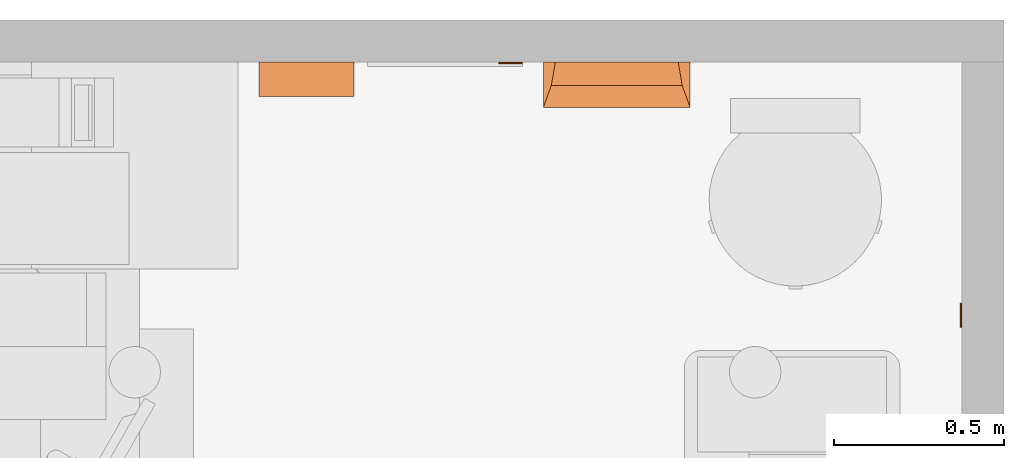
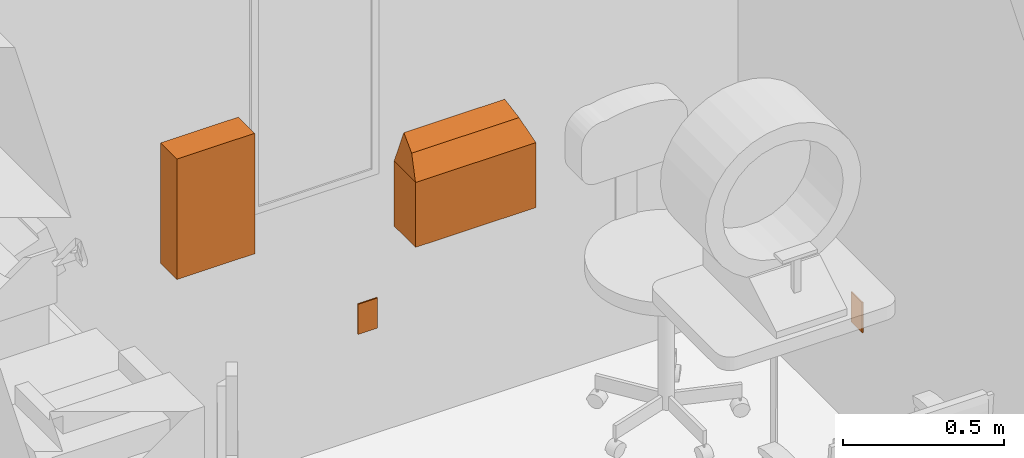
# One storey, part 7 of 11: 4 proxies.
"""IFC2X3 building model written with IfcOpenShell, lengths in feet."""

import ifcopenshell
import ifcopenshell.guid

model = None  # the IFC model being written
_history = None  # IfcOwnerHistory: only IFC2X3 demands one
_inside = {}  # id of a spatial element -> (the spatial element, [elements in it])
_under = {}  # id of a project, library or spatial element -> (it, [spatial elements below it])
_declared = {}  # id of a project -> (the project, [libraries it declares])
_typed = {}  # id of a type object -> (the type object, [elements of that type])
_made_of = {}  # id of a material, layer set ... -> (it, [elements and type objects made of it])


def new_model(schema):
    """Start an empty IFC model of exactly this schema.

    Asked for "IFC4X3", IfcOpenShell would pick the latest addendum, in which some entities
    have other attributes; the version numbers below select the first issue.
    IFC2X3 requires an IfcOwnerHistory on every rooted entity: one is made here for all.
    """
    global model, _history
    if schema == "IFC4X3":
        model = ifcopenshell.file(schema_version=(4, 3, 0, 0))
    else:
        model = ifcopenshell.file(schema=schema)
    _inside.clear()
    _under.clear()
    _declared.clear()
    _typed.clear()
    _made_of.clear()
    _history = None
    if model.schema == "IFC2X3":
        org = make("IfcOrganization", Name="unknown")
        user = make(
            "IfcPersonAndOrganization",
            ThePerson=make("IfcPerson", FamilyName="unknown"),
            TheOrganization=org,
        )
        app = make(
            "IfcApplication",
            ApplicationDeveloper=org,
            Version="unknown",
            ApplicationFullName="unknown",
            ApplicationIdentifier="unknown",
        )
        _history = make(
            "IfcOwnerHistory",
            OwningUser=user,
            OwningApplication=app,
            ChangeAction="ADDED",
            CreationDate=0,
        )
    return model


def make(cls, **values):
    """One entity of the class cls with the attributes given. An attribute that is None is left unset."""
    return model.create_entity(
        cls, **{name: value for name, value in values.items() if value is not None}
    )


def entity(cls, *values):
    """Any entity or typed value of the class cls, its attributes in the order of the schema. None: left unset."""
    e = model.create_entity(cls)
    for i, value in enumerate(values):
        if value is not None:
            e[i] = value
    return e


def rooted(cls, **values):
    """An entity with a GlobalId (a new one), such as an element, a storey or a relation."""
    return make(cls, GlobalId=ifcopenshell.guid.new(), OwnerHistory=_history, **values)


def si_unit(unit_type, name, prefix=None):
    """IfcSIUnit, for example si_unit("LENGTHUNIT", "METRE", prefix="MILLI")."""
    return make("IfcSIUnit", UnitType=unit_type, Prefix=prefix, Name=name)


def converted_unit(unit_type, name, factor, base, dimensions=None, offset=None):
    """IfcConversionBasedUnit, such as the inch: factor (a typed value) times the base unit."""
    return make(
        "IfcConversionBasedUnit"
        if offset is None
        else "IfcConversionBasedUnitWithOffset",
        ConversionOffset=offset,
        Dimensions=None
        if dimensions is None
        else entity("IfcDimensionalExponents", *dimensions),
        UnitType=unit_type,
        Name=name,
        ConversionFactor=make(
            "IfcMeasureWithUnit", ValueComponent=factor, UnitComponent=base
        ),
    )


def derived_unit(unit_type, elements):
    """IfcDerivedUnit: a product of units, each with its exponent."""
    return make(
        "IfcDerivedUnit",
        Elements=[
            make("IfcDerivedUnitElement", Unit=unit, Exponent=power)
            for unit, power in elements
        ],
        UnitType=unit_type,
    )


def assignment(units):
    """IfcUnitAssignment: the units of a project."""
    return None if units is None else make("IfcUnitAssignment", Units=units)


def point(xyz):
    """IfcCartesianPoint."""
    return None if xyz is None else make("IfcCartesianPoint", Coordinates=xyz)


def direction(xyz):
    """IfcDirection."""
    return None if xyz is None else make("IfcDirection", DirectionRatios=xyz)


def frame(location, z_axis=None, x_axis=None):
    """IfcAxis2Placement3D, a coordinate frame: its origin and axes. An axis left out is left unset."""
    return make(
        "IfcAxis2Placement3D",
        Location=point(location),
        Axis=direction(z_axis),
        RefDirection=direction(x_axis),
    )


def frame_2d(location, x_axis=None):
    """IfcAxis2Placement2D, a coordinate frame in the plane: its origin and x axis."""
    return make(
        "IfcAxis2Placement2D", Location=point(location), RefDirection=direction(x_axis)
    )


def origin():
    """The frame at (0, 0, 0) with its axes left unset."""
    return frame((0.0, 0.0, 0.0))


def origin_2d_with_axis():
    """The frame at (0, 0) in the plane with the x axis (1, 0) written out."""
    return frame_2d((0.0, 0.0), x_axis=(1.0, 0.0))


def place(relative_to, where):
    """IfcLocalPlacement: puts the frame where relative to a parent placement (None: the world)."""
    return make(
        "IfcLocalPlacement", PlacementRelTo=relative_to, RelativePlacement=where
    )


def context(
    kind, dimensions, precision=None, world=None, true_north=None, identifier=None
):
    """IfcGeometricRepresentationContext, for example the 3D "Model" context."""
    return make(
        "IfcGeometricRepresentationContext",
        ContextIdentifier=identifier,
        ContextType=kind,
        CoordinateSpaceDimension=dimensions,
        Precision=precision,
        WorldCoordinateSystem=world,
        TrueNorth=true_north,
    )


def subcontext(parent, identifier, kind, view, scale=None):
    """IfcGeometricRepresentationSubContext, for example "Body" below "Model"."""
    return make(
        "IfcGeometricRepresentationSubContext",
        ContextIdentifier=identifier,
        ContextType=kind,
        ParentContext=parent,
        TargetScale=scale,
        TargetView=view,
    )


def project(units=None, contexts=None):
    """IfcProject with its units and contexts."""
    return rooted(
        "IfcProject",
        Name="project",
        RepresentationContexts=contexts,
        UnitsInContext=assignment(units),
    )


def spatial(cls, under=None, at=None, **own):
    """A site, building, storey or space (cls), placed at a placement, below another one or the project."""
    s = rooted(cls, ObjectPlacement=at, **own)
    if under is not None:
        _under.setdefault(under.id(), (under, []))[1].append(s)
    return s


def profile(cls, at=None, kind="AREA", **sizes):
    """A parametric profile (cls). Its sizes go by their IFC names, for example OverallWidth=200.0."""
    return make(cls, ProfileType=kind, Position=at, **sizes)


def rectangle(**sizes):
    """IfcRectangleProfileDef."""
    return profile("IfcRectangleProfileDef", **sizes)


def extrude(swept, where, along, depth):
    """IfcExtrudedAreaSolid: the profile swept, set in the frame where, extruded along a direction by depth."""
    return make(
        "IfcExtrudedAreaSolid",
        SweptArea=swept,
        Position=where,
        ExtrudedDirection=direction(along),
        Depth=depth,
    )


def faces_of(points, faces, orient=None, outer=None):
    """IfcFace entities. A face is a list of loops; a loop is a list of indices into points, from 0.

    orient and outer hold one flag for each loop. By default every Orientation is true, the
    first loop of a face is its IfcFaceOuterBound and the others are IfcFaceBound.
    """
    made = []
    for i, loops in enumerate(faces):
        bounds = []
        for j, loop in enumerate(loops):
            is_outer = j == 0 if outer is None else outer[i][j]
            bounds.append(
                make(
                    "IfcFaceOuterBound" if is_outer else "IfcFaceBound",
                    Bound=make("IfcPolyLoop", Polygon=[points[k] for k in loop]),
                    Orientation=True if orient is None else orient[i][j],
                )
            )
        made.append(make("IfcFace", Bounds=bounds))
    return made


def faceted_brep(points, faces, orient=None, outer=None, voids=None):
    """IfcFacetedBrep: a solid bounded by flat faces; with voids (closed shells), ...WithVoids."""
    shared = [point(p) for p in points]
    hull = make("IfcClosedShell", CfsFaces=faces_of(shared, faces, orient, outer))
    if voids is None:
        return make("IfcFacetedBrep", Outer=hull)
    return make(
        "IfcFacetedBrepWithVoids",
        Outer=hull,
        Voids=[
            make(cls, CfsFaces=faces_of(shared, fs, o, b)) for cls, fs, o, b in voids
        ],
    )


def shape(context_of_items, identifier, shape_type, items):
    """IfcShapeRepresentation: the items that make up one representation, for example the "Body"."""
    return make(
        "IfcShapeRepresentation",
        ContextOfItems=context_of_items,
        RepresentationIdentifier=identifier,
        RepresentationType=shape_type,
        Items=items,
    )


def source(mapping_origin, context_of_items, identifier, shape_type, items):
    """IfcRepresentationMap: a shape defined once, which mapped items show again and again."""
    return make(
        "IfcRepresentationMap",
        MappingOrigin=mapping_origin,
        MappedRepresentation=shape(context_of_items, identifier, shape_type, items),
    )


def transform(
    local_origin,
    x_axis=None,
    y_axis=None,
    z_axis=None,
    scale=None,
    scale2=None,
    scale3=None,
    uniform=True,
):
    """IfcCartesianTransformationOperator3D, or its non-uniform kind. x_axis, y_axis, z_axis: its Axis1, 2, 3."""
    if uniform:
        return make(
            "IfcCartesianTransformationOperator3D",
            Axis1=direction(x_axis),
            Axis2=direction(y_axis),
            LocalOrigin=point(local_origin),
            Scale=scale,
            Axis3=direction(z_axis),
        )
    return make(
        "IfcCartesianTransformationOperator3DnonUniform",
        Axis1=direction(x_axis),
        Axis2=direction(y_axis),
        LocalOrigin=point(local_origin),
        Scale=scale,
        Axis3=direction(z_axis),
        Scale2=scale2,
        Scale3=scale3,
    )


def mapped(mapping_source, mapping_target):
    """IfcMappedItem: shows the shape of a source again, moved by a transform."""
    return make(
        "IfcMappedItem", MappingSource=mapping_source, MappingTarget=mapping_target
    )


def made_of(thing, what):
    """Note that an element or type object is made of a material, layer set ...; save() writes the relation."""
    if what is not None:
        _made_of.setdefault(what.id(), (what, []))[1].append(thing)
    return thing


def type_object(cls, material=None, **own):
    """A type object (cls), such as IfcWallType, which elements share."""
    return made_of(rooted(cls, **own), material)


def type_shapes(of_type, sources):
    """Give a type object the sources (RepresentationMaps) that its elements show as mapped items."""
    of_type.RepresentationMaps = sources


def element(
    cls,
    number,
    at=None,
    inside=None,
    cuts=None,
    type_object=None,
    material=None,
    context=None,
    identifier="Body",
    shape_type=None,
    held_by="IfcProductDefinitionShape",
    body=None,
    shapes=None,
    **own,
):
    """One element of the class cls, such as IfcWall. Its Tag is "e" and its number.

    at: its placement. inside: the storey or other place that contains it. cuts: it is an
    opening in that element (IfcRelVoidsElement). A single representation is given by context,
    identifier, shape_type and body (its items); several are given by shapes. held_by: the class
    of the entity that holds the representations. save() writes the other relations.
    """
    e = rooted(cls, Tag="e%d" % number, ObjectPlacement=at, **own)
    if body is not None:
        shapes = [shape(context, identifier, shape_type, body)]
    if shapes is not None:
        e.Representation = make(held_by, Representations=shapes)
    if inside is not None:
        _inside.setdefault(inside.id(), (inside, []))[1].append(e)
    if cuts is not None:
        rooted(
            "IfcRelVoidsElement", RelatingBuildingElement=cuts, RelatedOpeningElement=e
        )
    if type_object is not None:
        _typed.setdefault(type_object.id(), (type_object, []))[1].append(e)
    return made_of(e, material)


def aggregate(whole, parts):
    """IfcRelAggregates: a whole, such as a stair, and the parts it consists of."""
    return rooted("IfcRelAggregates", RelatingObject=whole, RelatedObjects=parts)


def save(model, path):
    """Write the relations noted so far, then the file.

    IfcRelAggregates (storeys below a building ...), IfcRelContainedInSpatialStructure (elements
    in a storey), IfcRelDefinesByType, IfcRelAssociatesMaterial and IfcRelDeclares: one each for
    every whole, place, type object, material and project.
    """
    for whole, parts in _under.values():
        aggregate(whole, parts)
    for where, things in _inside.values():
        rooted(
            "IfcRelContainedInSpatialStructure",
            RelatedElements=things,
            RelatingStructure=where,
        )
    for kind, things in _typed.values():
        rooted("IfcRelDefinesByType", RelatedObjects=things, RelatingType=kind)
    for what, things in _made_of.values():
        rooted("IfcRelAssociatesMaterial", RelatedObjects=things, RelatingMaterial=what)
    for by, libraries in _declared.values():
        rooted("IfcRelDeclares", RelatingContext=by, RelatedDefinitions=libraries)
    model.write(path)


model = new_model("IFC2X3")

# Units and contexts
model_context = context("Model", 3, precision=0.0001, world=origin(), true_north=direction((6.12303176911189e-17, 1.0)))
body_context = subcontext(model_context, "Body", "Model", "MODEL_VIEW")
ifc_project = project(units=[converted_unit("LENGTHUNIT", "FOOT", entity("IfcRatioMeasure", 0.3048), si_unit("LENGTHUNIT", "METRE"), dimensions=[1, 0, 0, 0, 0, 0, 0]), converted_unit("AREAUNIT", "SQUARE FOOT", entity("IfcRatioMeasure", 0.09290304), si_unit("AREAUNIT", "SQUARE_METRE"), dimensions=[2, 0, 0, 0, 0, 0, 0]), converted_unit("VOLUMEUNIT", "CUBIC FOOT", entity("IfcRatioMeasure", 0.028316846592), si_unit("VOLUMEUNIT", "CUBIC_METRE"), dimensions=[3, 0, 0, 0, 0, 0, 0]), converted_unit("PLANEANGLEUNIT", "DEGREE", entity("IfcRatioMeasure", 0.0174532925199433), si_unit("PLANEANGLEUNIT", "RADIAN"), dimensions=[0, 0, 0, 0, 0, 0, 0]), si_unit("MASSUNIT", "GRAM", prefix="KILO"), derived_unit("MASSDENSITYUNIT", [(si_unit("MASSUNIT", "GRAM", prefix="KILO"), 1), (si_unit("LENGTHUNIT", "METRE"), -3)]), si_unit("TIMEUNIT", "SECOND"), si_unit("FREQUENCYUNIT", "HERTZ"), si_unit("THERMODYNAMICTEMPERATUREUNIT", "DEGREE_CELSIUS"), derived_unit("THERMALTRANSMITTANCEUNIT", [(si_unit("MASSUNIT", "GRAM", prefix="KILO"), 1), (si_unit("THERMODYNAMICTEMPERATUREUNIT", "KELVIN"), -1), (si_unit("TIMEUNIT", "SECOND"), -3)]), derived_unit("VOLUMETRICFLOWRATEUNIT", [(si_unit("LENGTHUNIT", "METRE"), 3), (si_unit("TIMEUNIT", "SECOND"), -1)]), si_unit("ELECTRICCURRENTUNIT", "AMPERE"), si_unit("ELECTRICVOLTAGEUNIT", "VOLT"), si_unit("POWERUNIT", "WATT"), si_unit("FORCEUNIT", "NEWTON"), si_unit("ILLUMINANCEUNIT", "LUX"), si_unit("LUMINOUSFLUXUNIT", "LUMEN"), si_unit("LUMINOUSINTENSITYUNIT", "CANDELA"), derived_unit("USERDEFINED", [(si_unit("MASSUNIT", "GRAM", prefix="KILO"), -1), (si_unit("LENGTHUNIT", "METRE"), -2), (si_unit("TIMEUNIT", "SECOND"), 3), (si_unit("LUMINOUSFLUXUNIT", "LUMEN"), 1)]), derived_unit("LINEARVELOCITYUNIT", [(si_unit("LENGTHUNIT", "METRE"), 1), (si_unit("TIMEUNIT", "SECOND"), -1)]), si_unit("PRESSUREUNIT", "PASCAL"), derived_unit("USERDEFINED", [(si_unit("LENGTHUNIT", "METRE"), -2), (si_unit("MASSUNIT", "GRAM", prefix="KILO"), 1), (si_unit("TIMEUNIT", "SECOND"), -2)])], contexts=[model_context])

# Site, building, storey, space
site_placement = place(None, origin())
site = spatial("IfcSite", under=ifc_project, at=site_placement, Name="Default", CompositionType="ELEMENT")
building_placement = place(site_placement, origin())
building = spatial("IfcBuilding", under=site, at=building_placement, Name="EYE CLINIC:  OPTHALMOLOGY AND OPTOMETRY SERVICES (Ch. 233)", CompositionType="ELEMENT")
storey_placement = place(building_placement, origin())
storey = spatial("IfcBuildingStorey", under=building, at=storey_placement, Name="DATUM", CompositionType="ELEMENT", Elevation=0.0)
space_placement = place(storey_placement, origin())
space = spatial("IfcSpace", under=storey, at=space_placement, Name="(OPVF2)", CompositionType="ELEMENT", InteriorOrExteriorSpace="INTERNAL")

# Proxies
building_element_proxy_type_1 = type_object("IfcBuildingElementProxyType", Name="A5107 - Dispenser, Glove, Surgical-Examination, Wall Mntd", PredefinedType="NOTDEFINED")
shared_shape_1 = source(origin(), body_context, "Body", "SweptSolid", [
    extrude(rectangle(XDim=0.333333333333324, YDim=0.916666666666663, at=frame_2d((-1.38777878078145e-17, 0.0), x_axis=(1.0, 0.0))), frame((0.0, 0.166666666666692, 0.0), z_axis=(0.0, 0.0, 1.0), x_axis=(0.0, 1.0, 0.0)), (0.0, 0.0, 1.0), 1.5),
])
type_shapes(building_element_proxy_type_1, [shared_shape_1])
proxy_1_placement = place(space_placement, frame((193.301341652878, 29.010750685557, 3.0), z_axis=(0.0, 0.0, 1.0), x_axis=(-1.0, 0.0, 0.0)))
element("IfcBuildingElementProxy", 1, at=proxy_1_placement, inside=space, type_object=building_element_proxy_type_1, Name="A5107 - Dispenser, Glove, Surgical-Examination, Wall Mntd:A5107 - Dispenser, Glove, Surgical-Examination, Wall Mntd", ObjectType="A5107 - Dispenser, Glove, Surgical-Examination, Wall Mntd", context=body_context, shape_type="MappedRepresentation", body=[
    mapped(shared_shape_1, transform((0.0, 0.0, 0.0), scale=1.0)),
])
building_element_proxy_type_2 = type_object("IfcBuildingElementProxyType", Name="A5108 - Waste Disposal Unit, Sharps", PredefinedType="NOTDEFINED")
shared_shape_2 = source(origin(), body_context, "Body", "Brep", [
    faceted_brep([(1.41666666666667, 0.437500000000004, 0.0), (1.41666666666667, 0.0, 0.0), (0.0, 0.0, 0.0), (0.0, 0.437500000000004, 0.0), (1.41666666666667, 0.437500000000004, 0.808422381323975), (1.41666666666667, 0.434933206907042, 0.810989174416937), (1.41666666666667, 0.0, 0.810989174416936), (1.30237607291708, 0.0, 1.125), (0.114290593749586, 0.0, 1.125), (0.0, 0.0, 0.810989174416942), (0.0, 0.434933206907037, 0.810989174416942), (0.0, 0.437500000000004, 0.808422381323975), (0.0758354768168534, 0.226576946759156, 1.01934543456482), (1.34083118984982, 0.226576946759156, 1.01934543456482)], [[[0, 1, 2, 3]], [[0, 4, 5, 6, 1]], [[1, 6, 7, 8, 9, 2]], [[2, 9, 10, 11, 3]], [[3, 11, 4, 0]], [[11, 10, 12, 13, 5, 4]], [[13, 12, 8, 7]], [[5, 13, 7, 6]], [[8, 12, 10, 9]]]),
])
type_shapes(building_element_proxy_type_2, [shared_shape_2])
proxy_2_placement = place(storey_placement, frame((197.009674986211, 29.010750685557, 2.5), z_axis=(0.0, 0.0, 1.0), x_axis=(-1.0, 0.0, 0.0)))
element("IfcBuildingElementProxy", 2, at=proxy_2_placement, inside=storey, type_object=building_element_proxy_type_2, Name="A5108 - Waste Disposal Unit, Sharps:A5108 - Waste Disposal Unit, Sharps", ObjectType="A5108 - Waste Disposal Unit, Sharps", context=body_context, shape_type="MappedRepresentation", body=[
    mapped(shared_shape_2, transform((0.0, 0.0, 0.0), scale=1.0)),
])
building_element_proxy_type_3 = type_object("IfcBuildingElementProxyType", Name="Duplex", PredefinedType="NOTDEFINED")
shared_shape_3 = source(origin(), body_context, "Body", "SweptSolid", [
    extrude(rectangle(XDim=0.0156249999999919, YDim=0.229166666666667, at=origin_2d_with_axis()), frame((0.0, 0.210937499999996, 0.0), z_axis=(0.0, 0.0, 1.0), x_axis=(0.0, 1.0, 0.0)), (0.0, 0.0, 1.0), 0.37500000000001),
])
type_shapes(building_element_proxy_type_3, [shared_shape_3])
for number, where, z_axis, x_axis, name in (
    (3, (199.842894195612, 26.5628340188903, 1.3125), (0.0, 0.0, 1.0), (0.0, 1.0, 0.0), "Outlet, Duplex, Wall:Duplex"),
    (4, (195.275185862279, 29.213875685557, 1.3125), (0.0, 0.0, 1.0), (-1.0, 0.0, 0.0), "Outlet, Duplex, Wall:Duplex"),
):
    element("IfcBuildingElementProxy", number, at=place(space_placement, frame(where, z_axis=z_axis, x_axis=x_axis)), inside=space, type_object=building_element_proxy_type_3, Name=name, ObjectType="Duplex", context=body_context, shape_type="MappedRepresentation", body=[
        mapped(shared_shape_3, transform((0.0, 0.0, 0.0), scale=1.0)),
    ])

save(model, "model.ifc")
